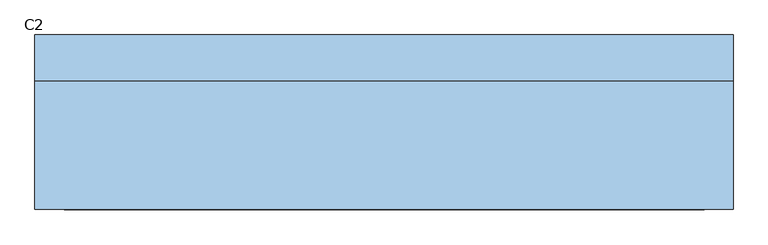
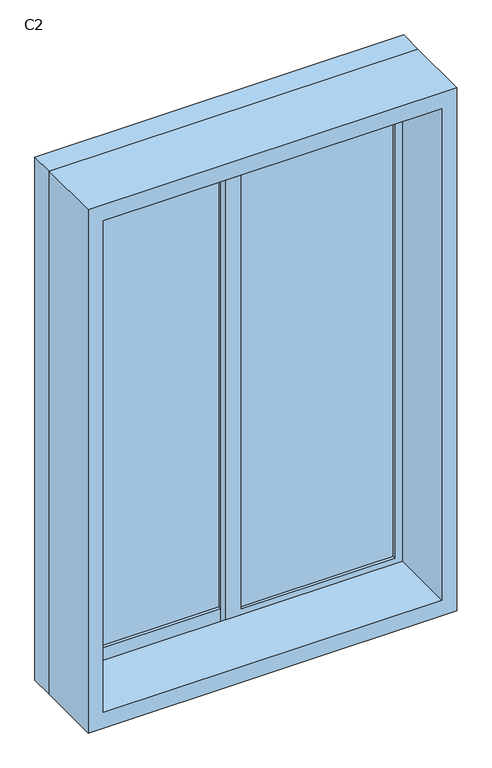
"""IFC4 building model written with IfcOpenShell, lengths in millimetres: window geometry, 推拉窗6 : C2."""

from ifc_helpers import new_model, si_unit, frame, origin, place, context, project, spatial, polyline, outline, extrude, source, transform, mapped, element, save


def c2_d6b350ee(model_context):
    return source(origin(), model_context, "Body", "SweptSolid", [
        extrude(outline(polyline([(-515.475, 53.1265625), (-15.475, 53.1265625), (-15.475, 43.1265625), (-515.475, 43.1265625), (-515.475, 53.1265625)])), frame((0.0, 0.0, 975.0), z_axis=(0.0, 0.0, 1.0), x_axis=(1.0, 0.0, 0.0)), (0.0, 0.0, 1.0), 1650.0),
        extrude(outline(polyline([(34.525, 23.1265625), (534.525, 23.1265625), (534.525, 13.1265625), (34.525, 13.1265625), (34.525, 23.1265625)])), frame((0.0, 0.0, 975.0), z_axis=(0.0, 0.0, 1.0), x_axis=(1.0, 0.0, 0.0)), (0.0, 0.0, 1.0), 1650.0),
        extrude(outline(polyline([(2700.0, -590.475), (900.0, -590.475), (900.0, 609.525), (2700.0, 609.525), (2700.0, -590.475)]), holes=[polyline([(2645.0, 559.525), (955.0, 559.525), (955.0, -540.475), (2645.0, -540.475), (2645.0, 559.525)])]), frame((0.0, -216.8734375, 0.0), z_axis=(0.0, 1.0, 0.0), x_axis=(0.0, 0.0, 1.0)), (0.0, 0.0, 1.0), 220.0),
        extrude(outline(polyline([(925.0, 34.525), (2675.0, 34.525), (2675.0, -565.475), (925.0, -565.475), (925.0, 34.525)]), holes=[polyline([(975.0, -15.475), (975.0, -515.475), (2625.0, -515.475), (2625.0, -15.475), (975.0, -15.475)])]), frame((0.0, 33.1265625, 0.0), z_axis=(0.0, 1.0, 0.0), x_axis=(0.0, 0.0, 1.0)), (0.0, 0.0, 1.0), 30.0),
        extrude(outline(polyline([(2675.0, -15.475), (925.0, -15.475), (925.0, 584.525), (2675.0, 584.525), (2675.0, -15.475)]), holes=[polyline([(2625.0, 34.525), (2625.0, 534.525), (975.0, 534.525), (975.0, 34.525), (2625.0, 34.525)])]), frame((0.0, 3.1265625, 0.0), z_axis=(0.0, 1.0, 0.0), x_axis=(0.0, 0.0, 1.0)), (0.0, 0.0, 1.0), 30.0),
        extrude(outline(polyline([(2700.0, -590.475), (900.0, -590.475), (900.0, 609.525), (2700.0, 609.525), (2700.0, -590.475)]), holes=[polyline([(925.0, -565.475), (2675.0, -565.475), (2675.0, 584.525), (925.0, 584.525), (925.0, -565.475)])]), frame((0.0, 3.1265625, 0.0), z_axis=(0.0, 1.0, 0.0), x_axis=(0.0, 0.0, 1.0)), (0.0, 0.0, 1.0), 80.0),
    ])


if __name__ == "__main__":
    model = new_model("IFC4")
    model_context = context("Model", 3, world=origin())
    ifc_project = project(units=[si_unit("LENGTHUNIT", "METRE", prefix="MILLI")], contexts=[model_context])
    site = spatial("IfcSite", under=ifc_project)
    building = spatial("IfcBuilding", under=site)
    placement = place(None, origin())
    c2_shape = c2_d6b350ee(model_context)
    element("IfcWindow", 1, ObjectType="推拉窗6 : C2", at=placement, inside=building, context=model_context, shape_type="MappedRepresentation", body=[
        mapped(c2_shape, transform((0.0, 0.0, 0.0), x_axis=(1.0, 0.0, 0.0), y_axis=(0.0, 1.0, 0.0), z_axis=(0.0, 0.0, 1.0))),
    ])
    save(model, "model.ifc")
